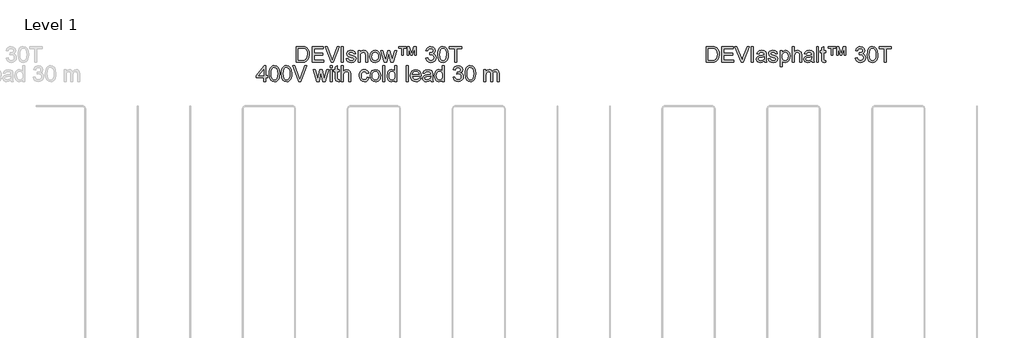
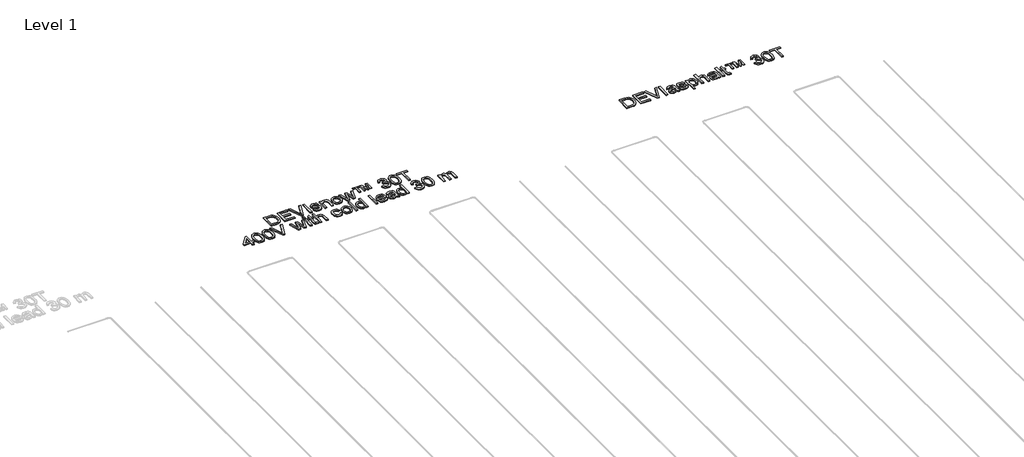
# One storey, part 22 of 26: 2 proxies.
"""IFC4 building model written with IfcOpenShell, lengths in millimetres."""

from ifc_helpers import new_model, si_unit, origin, origin_with_axes, place, context, project, spatial, polyline, outline, extrude, element, save

model = new_model("IFC4")

# Units and contexts
model_context = context("Model", 3, world=origin())
ifc_project = project(units=[si_unit("LENGTHUNIT", "METRE", prefix="MILLI")], contexts=[model_context])

# Site, building, storey
site = spatial("IfcSite", under=ifc_project)
building = spatial("IfcBuilding", under=site)
storey = spatial("IfcBuildingStorey", under=building, Name="Level 1", Elevation=0.0)

# Proxies
placement = place(None, origin())
element("IfcBuildingElementProxy", 1, Name="150mm", ObjectType="150mm", at=placement, inside=storey, context=model_context, shape_type="SweptSolid", body=[
    extrude(outline(polyline([(29329.6618834, -17520.7202), (29329.6618834, -17370.0357347), (29381.6436093, -17370.0357347), (29408.5357832, -17372.2062385), (29430.6822793, -17382.985181), (29441.1025368, -17394.4630992), (29448.524556, -17408.7369206), (29452.9667311, -17425.5307337), (29454.4474562, -17444.568627), (29450.4375424, -17474.9740739), (29440.1368466, -17496.9182349), (29426.3780599, -17510.585051), (29408.3702363, -17518.145026), (29384.1452069, -17520.7202), (29329.6618834, -17520.7202)]), holes=[polyline([(29348.4974416, -17501.8846418), (29381.8275503, -17501.8846418), (29406.0709738, -17499.162315), (29420.0504896, -17491.4735813), (29431.5100138, -17472.7667819), (29435.611898, -17444.2743214), (29433.6023426, -17423.746506), (29427.5736764, -17408.5897678), (29418.6663336, -17398.1787074), (29408.0207484, -17391.8879252), (29381.3125155, -17388.8712929), (29348.4974416, -17388.8712929), (29348.4974416, -17501.8846418)])]), origin_with_axes(), (0.0, 0.0, 1.0), 10.0),
    extrude(outline(polyline([(29480.3463486, -17520.7202), (29480.3463486, -17370.0357347), (29588.650808, -17370.0357347), (29588.650808, -17388.8712929), (29499.1819068, -17388.8712929), (29499.1819068, -17433.6057435), (29583.9419185, -17433.6057435), (29583.9419185, -17452.4413017), (29499.1819068, -17452.4413017), (29499.1819068, -17501.8846418), (29591.0052528, -17501.8846418), (29591.0052528, -17520.7202), (29480.3463486, -17520.7202)])), origin_with_axes(), (0.0, 0.0, 1.0), 10.0),
    extrude(outline(polyline([(29663.7723114, -17520.7202), (29603.8075462, -17370.0357347), (29623.9674795, -17370.0357347), (29664.1034052, -17478.5977115), (29672.2335973, -17503.0618642), (29680.2534248, -17478.5977115), (29720.4997151, -17370.0357347), (29740.6596484, -17370.0357347), (29683.233269, -17520.7202), (29663.7723114, -17520.7202)])), origin_with_axes(), (0.0, 0.0, 1.0), 10.0),
    extrude(outline(polyline([(29760.5252762, -17520.7202), (29760.5252762, -17370.0357347), (29779.3608343, -17370.0357347), (29779.3608343, -17520.7202), (29760.5252762, -17520.7202)])), origin_with_axes(), (0.0, 0.0, 1.0), 10.0),
    extrude(outline(polyline([(29885.3108489, -17506.5935313), (29867.0455079, -17519.3590366), (29846.8671804, -17523.0746447), (29831.1264296, -17520.8397616), (29819.5151541, -17514.1351122), (29812.3552507, -17503.953978), (29809.9686163, -17491.2896403), (29813.5738599, -17476.3904195), (29823.0468212, -17465.5746889), (29836.2353908, -17459.3942714), (29852.5325631, -17456.56158), (29885.2004843, -17450.0868569), (29885.3108489, -17445.8930021), (29884.0140649, -17437.4868985), (29880.1237128, -17431.9870627), (29871.4233036, -17427.9035726), (29859.3015919, -17426.5424092), (29840.2453045, -17430.1660468), (29831.1586192, -17443.0235226), (29812.3230611, -17440.6690778), (29820.4716473, -17422.274978), (29836.8791843, -17411.4960356), (29861.729613, -17407.706851), (29884.5566908, -17411.0545772), (29897.4509548, -17419.4606808), (29903.2267021, -17432.2445801), (29904.1464071, -17448.7256935), (29904.1464071, -17472.1597766), (29905.1029003, -17504.8828801), (29908.8552966, -17520.7202), (29890.0197385, -17520.7202), (29885.3108489, -17506.5935313)]), holes=[polyline([(29885.3108489, -17468.922415), (29854.9237961, -17474.6981624), (29838.7185942, -17477.7515829), (29831.3793484, -17482.7179899), (29828.8041745, -17489.9652652), (29834.4143749, -17500.1555964), (29850.8770942, -17504.2390866), (29869.9333815, -17499.7325321), (29882.2206402, -17488.824831), (29885.2004843, -17474.256704), (29885.3108489, -17468.922415)])]), origin_with_axes(), (0.0, 0.0, 1.0), 10.0),
    extrude(outline(polyline([(29922.9819652, -17487.7579732), (29941.8175234, -17485.4035284), (29944.7881705, -17493.4601441), (29950.5363267, -17499.3830442), (29970.512319, -17504.2390866), (29989.7157591, -17499.7877144), (29995.9697531, -17489.3398658), (29994.3970575, -17484.5390057), (29989.6789709, -17480.8785799), (29970.2915898, -17475.5075028), (29941.927888, -17466.2920588), (29929.5486588, -17455.5315104), (29925.33641, -17440.337984), (29928.7209243, -17426.3032859), (29937.9547624, -17415.5795257), (29949.9293214, -17410.0061135), (29966.1345233, -17407.706851), (29989.0535716, -17411.4040651), (30003.6216986, -17421.4104554), (30010.0964217, -17438.314633), (29991.2608635, -17440.6690778), (29984.1791351, -17430.2764114), (29967.6060512, -17426.5424092), (29949.5798335, -17430.1108645), (29944.1719681, -17438.4249976), (29946.4160483, -17443.9064394), (29953.4425944, -17448.0635059), (29969.6661904, -17452.0734197), (29997.3125223, -17460.9393757), (30010.151604, -17470.9825542), (30014.8053112, -17487.353303), (30009.3422636, -17505.3795208), (29993.5785201, -17518.4577257), (29970.2548016, -17523.0746447), (29951.2628936, -17520.8489587), (29937.4029394, -17514.1719004), (29928.1507073, -17503.1170465), (29922.9819652, -17487.7579732)])), origin_with_axes(), (0.0, 0.0, 1.0), 10.0),
    extrude(outline(polyline([(30035.9953141, -17563.1002058), (30035.9953141, -17410.0612958), (30054.8308723, -17410.0612958), (30054.8308723, -17428.528972), (30067.8538949, -17412.9123813), (30085.4386543, -17407.706851), (30098.1765684, -17409.5278669), (30109.3141958, -17414.9909145), (30118.382487, -17423.7649001), (30124.9123924, -17435.5187299), (30130.1731049, -17464.5446193), (30128.6877814, -17480.6532522), (30124.2318107, -17495.0604308), (30116.9477472, -17507.0349897), (30106.9781451, -17515.8457635), (30095.3668696, -17521.2674244), (30083.1577859, -17523.0746447), (30066.768643, -17518.2369965), (30054.8308723, -17506.0049202), (30054.8308723, -17563.1002058), (30035.9953141, -17563.1002058)]), holes=[polyline([(30054.8308723, -17466.2736647), (30056.8680188, -17483.1594483), (30062.9794585, -17494.9684603), (30071.9971659, -17501.92143), (30082.7531157, -17504.2390866), (30093.6838095, -17501.8386566), (30102.9314432, -17494.6373665), (30109.2360209, -17482.3960931), (30111.3375468, -17464.8757131), (30109.2866046, -17448.0819), (30103.1337783, -17436.1073411), (30094.1298664, -17428.9336422), (30083.5256679, -17426.5424092), (30072.8800827, -17429.0853935), (30063.5312815, -17436.7143464), (30057.0059746, -17449.1901445), (30054.8308723, -17466.2736647)])]), origin_with_axes(), (0.0, 0.0, 1.0), 10.0),
    extrude(outline(polyline([(30151.3631078, -17520.7202), (30151.3631078, -17370.0357347), (30170.198666, -17370.0357347), (30170.198666, -17425.4387632), (30184.8863546, -17412.1398291), (30202.9769518, -17407.706851), (30224.1301665, -17412.5444993), (30236.9692481, -17425.9170098), (30240.8320091, -17450.6754681), (30240.8320091, -17520.7202), (30221.9964509, -17520.7202), (30221.9964509, -17452.6252427), (30220.4973318, -17440.8346247), (30215.9999744, -17432.7596149), (30208.7526991, -17428.0967106), (30199.0038262, -17426.5424092), (30183.5711765, -17430.7362639), (30173.2704806, -17442.1038176), (30170.198666, -17461.9326571), (30170.198666, -17520.7202), (30151.3631078, -17520.7202)])), origin_with_axes(), (0.0, 0.0, 1.0), 10.0),
    extrude(outline(polyline([(30337.3642446, -17506.5935313), (30319.0989035, -17519.3590366), (30298.9205761, -17523.0746447), (30283.1798252, -17520.8397616), (30271.5685498, -17514.1351122), (30264.4086464, -17503.953978), (30262.022012, -17491.2896403), (30265.6272555, -17476.3904195), (30275.1002169, -17465.5746889), (30288.2887864, -17459.3942714), (30304.5859588, -17456.56158), (30337.25388, -17450.0868569), (30337.3642446, -17445.8930021), (30336.0674606, -17437.4868985), (30332.1771085, -17431.9870627), (30323.4766993, -17427.9035726), (30311.3549875, -17426.5424092), (30292.2987002, -17430.1660468), (30283.2120149, -17443.0235226), (30264.3764567, -17440.6690778), (30272.5250429, -17422.274978), (30288.9325799, -17411.4960356), (30313.7830087, -17407.706851), (30336.6100865, -17411.0545772), (30349.5043504, -17419.4606808), (30355.2800978, -17432.2445801), (30356.1998027, -17448.7256935), (30356.1998027, -17472.1597766), (30357.1562959, -17504.8828801), (30360.9086923, -17520.7202), (30342.0731341, -17520.7202), (30337.3642446, -17506.5935313)]), holes=[polyline([(30337.3642446, -17468.922415), (30306.9771918, -17474.6981624), (30290.7719899, -17477.7515829), (30283.4327441, -17482.7179899), (30280.8575701, -17489.9652652), (30286.4677706, -17500.1555964), (30302.9304898, -17504.2390866), (30321.9867772, -17499.7325321), (30334.2740358, -17488.824831), (30337.25388, -17474.256704), (30337.3642446, -17468.922415)])]), origin_with_axes(), (0.0, 0.0, 1.0), 10.0),
    extrude(outline(polyline([(30382.0986952, -17520.7202), (30382.0986952, -17370.0357347), (30400.9342534, -17370.0357347), (30400.9342534, -17520.7202), (30382.0986952, -17520.7202)])), origin_with_axes(), (0.0, 0.0, 1.0), 10.0),
    extrude(outline(polyline([(30469.2131517, -17505.0116388), (30471.5675964, -17521.272023), (30457.477716, -17523.0746447), (30441.6955784, -17519.9476478), (30433.8229037, -17511.7438793), (30431.5420354, -17490.3699354), (30431.5420354, -17428.896854), (30417.4153667, -17428.896854), (30417.4153667, -17410.0612958), (30431.5420354, -17410.0612958), (30431.5420354, -17383.169122), (30450.3775935, -17372.0958739), (30450.3775935, -17410.0612958), (30469.2131517, -17410.0612958), (30469.2131517, -17428.896854), (30450.3775935, -17428.896854), (30450.3775935, -17489.8181124), (30451.3708749, -17499.530197), (30454.5898424, -17502.9698937), (30461.0093832, -17504.2390866), (30469.2131517, -17505.0116388)])), origin_with_axes(), (0.0, 0.0, 1.0), 10.0),
    extrude(outline(polyline([(30523.3653814, -17454.7957464), (30523.3653814, -17384.1624033), (30495.1120441, -17384.1624033), (30495.1120441, -17370.0357347), (30565.7453872, -17370.0357347), (30565.7453872, -17384.1624033), (30537.49205, -17384.1624033), (30537.49205, -17454.7957464), (30523.3653814, -17454.7957464)])), origin_with_axes(), (0.0, 0.0, 1.0), 10.0),
    extrude(outline(polyline([(30575.1631663, -17454.7957464), (30575.1631663, -17370.0357347), (30596.0588636, -17370.0357347), (30617.6167485, -17438.0939038), (30638.917116, -17370.0357347), (30659.923178, -17370.0357347), (30659.923178, -17454.7957464), (30645.7965093, -17454.7957464), (30645.7965093, -17385.1924729), (30624.6065064, -17454.7957464), (30610.4798378, -17454.7957464), (30589.2898349, -17384.1624033), (30589.2898349, -17454.7957464), (30575.1631663, -17454.7957464)])), origin_with_axes(), (0.0, 0.0, 1.0), 10.0),
    extrude(outline(polyline([(30751.746524, -17480.6946389), (30770.5820821, -17478.3401941), (30774.7989295, -17490.1767973), (30780.9747485, -17498.1690337), (30789.4130417, -17502.7215733), (30800.4173119, -17504.2390866), (30813.32997, -17502.1513563), (30823.299572, -17495.8881653), (30829.6731276, -17486.5439626), (30831.7976461, -17475.2131972), (30829.6915217, -17464.4572473), (30823.3731484, -17455.7338455), (30813.8082165, -17449.9534997), (30801.9624163, -17448.0267177), (30788.7554527, -17450.0868569), (30790.85238, -17431.2512987), (30793.8690124, -17431.4720279), (30815.2429563, -17426.0641626), (30822.3614729, -17419.2031634), (30824.7343118, -17409.4358964), (30823.0144635, -17401.3011058), (30817.8549185, -17394.7022225), (30809.9822438, -17390.3290253), (30800.1230063, -17388.8712929), (30790.2453748, -17390.3428209), (30782.170365, -17394.7574048), (30776.275056, -17402.1150447), (30772.9365269, -17412.4157406), (30754.1009687, -17410.0612958), (30759.6467898, -17393.1479211), (30769.5152243, -17380.5203716), (30783.0164935, -17372.6568939), (30799.4608187, -17370.0357347), (30822.1775319, -17375.2044768), (30838.0700341, -17389.3311454), (30843.56987, -17408.3322504), (30838.3459456, -17425.6962806), (30822.8949018, -17438.1674802), (30834.6855198, -17442.9315521), (30843.4227172, -17451.0433501), (30848.8305825, -17462.0614158), (30850.6332043, -17475.544291), (30847.0279607, -17493.9016025), (30836.2122301, -17509.2422817), (30819.8874665, -17519.616554), (30799.7551243, -17523.0746447), (30781.5449656, -17520.1223917), (30766.7193212, -17511.2656327), (30756.4094282, -17497.7183782), (30751.746524, -17480.6946389)])), origin_with_axes(), (0.0, 0.0, 1.0), 10.0),
    extrude(outline(polyline([(30867.1143176, -17446.5919779), (30868.4984737, -17422.4727146), (30872.6509417, -17403.2370848), (30879.530335, -17388.5907829), (30889.0952669, -17378.2395032), (30901.4147152, -17372.0866769), (30916.5576578, -17370.0357347), (30938.5570011, -17374.8917771), (30953.7505275, -17388.889687), (30962.5796954, -17411.1833359), (30966.0009979, -17446.5919779), (30964.6306375, -17470.5732855), (30960.5195562, -17489.7629301), (30953.6815496, -17504.4230276), (30944.1304133, -17514.8156939), (30931.7833739, -17521.009907), (30916.5576578, -17523.0746447), (30896.9863357, -17519.4877953), (30882.123903, -17508.7272469), (30870.866714, -17483.2422217), (30867.1143176, -17446.5919779)]), holes=[polyline([(30885.9498758, -17446.5551897), (30888.1571678, -17476.1834859), (30894.7790437, -17493.3313854), (30904.6382812, -17501.5121613), (30916.5576578, -17504.2390866), (30928.4770344, -17501.5029642), (30938.3362719, -17493.2945972), (30944.9581478, -17476.1375007), (30947.1654398, -17446.5551897), (30945.0317242, -17417.5936797), (30938.6305775, -17400.3124229), (30928.7897341, -17391.7315754), (30916.3369286, -17388.8712929), (30904.5463107, -17391.3912846), (30895.0733493, -17398.9512596), (30888.2307442, -17417.3085711), (30885.9498758, -17446.5551897)])]), origin_with_axes(), (0.0, 0.0, 1.0), 10.0),
    extrude(outline(polyline([(31027.2165619, -17520.7202), (31027.2165619, -17388.8712929), (30977.7732218, -17388.8712929), (30977.7732218, -17370.0357347), (31095.4954603, -17370.0357347), (31095.4954603, -17388.8712929), (31046.0521201, -17388.8712929), (31046.0521201, -17520.7202), (31027.2165619, -17520.7202)])), origin_with_axes(), (0.0, 0.0, 1.0), 10.0),
])
element("IfcBuildingElementProxy", 2, Name="150mm", ObjectType="150mm", at=placement, inside=storey, context=model_context, shape_type="SweptSolid", body=[
    extrude(outline(polyline([(25423.8396742, -17520.7202), (25423.8396742, -17370.0357347), (25475.8214001, -17370.0357347), (25502.7135739, -17372.2062385), (25524.86007, -17382.985181), (25535.2803276, -17394.4630992), (25542.7023468, -17408.7369206), (25547.1445219, -17425.5307337), (25548.6252469, -17444.568627), (25544.6153332, -17474.9740739), (25534.3146373, -17496.9182349), (25520.5558507, -17510.585051), (25502.548027, -17518.145026), (25478.3229977, -17520.7202), (25423.8396742, -17520.7202)]), holes=[polyline([(25442.6752323, -17501.8846418), (25476.0053411, -17501.8846418), (25500.2487646, -17499.162315), (25514.2282804, -17491.4735813), (25525.6878045, -17472.7667819), (25529.7896888, -17444.2743214), (25527.7801334, -17423.746506), (25521.7514672, -17408.5897678), (25512.8441244, -17398.1787074), (25502.1985391, -17391.8879252), (25475.4903063, -17388.8712929), (25442.6752323, -17388.8712929), (25442.6752323, -17501.8846418)])]), origin_with_axes(), (0.0, 0.0, 1.0), 10.0),
    extrude(outline(polyline([(25574.5241394, -17520.7202), (25574.5241394, -17370.0357347), (25682.8285988, -17370.0357347), (25682.8285988, -17388.8712929), (25593.3596975, -17388.8712929), (25593.3596975, -17433.6057435), (25678.1197092, -17433.6057435), (25678.1197092, -17452.4413017), (25593.3596975, -17452.4413017), (25593.3596975, -17501.8846418), (25685.1830435, -17501.8846418), (25685.1830435, -17520.7202), (25574.5241394, -17520.7202)])), origin_with_axes(), (0.0, 0.0, 1.0), 10.0),
    extrude(outline(polyline([(25757.9501022, -17520.7202), (25697.985337, -17370.0357347), (25718.1452703, -17370.0357347), (25758.281196, -17478.5977115), (25766.4113881, -17503.0618642), (25774.4312156, -17478.5977115), (25814.6775058, -17370.0357347), (25834.8374392, -17370.0357347), (25777.4110597, -17520.7202), (25757.9501022, -17520.7202)])), origin_with_axes(), (0.0, 0.0, 1.0), 10.0),
    extrude(outline(polyline([(25854.7030669, -17520.7202), (25854.7030669, -17370.0357347), (25873.5386251, -17370.0357347), (25873.5386251, -17520.7202), (25854.7030669, -17520.7202)])), origin_with_axes(), (0.0, 0.0, 1.0), 10.0),
    extrude(outline(polyline([(25901.7919623, -17487.7579732), (25920.6275205, -17485.4035284), (25923.5981676, -17493.4601441), (25929.3463237, -17499.3830442), (25949.3223161, -17504.2390866), (25968.5257562, -17499.7877144), (25974.7797501, -17489.3398658), (25973.2070546, -17484.5390057), (25968.488968, -17480.8785799), (25949.1015869, -17475.5075028), (25920.7378851, -17466.2920588), (25908.3586559, -17455.5315104), (25904.1464071, -17440.337984), (25907.5309214, -17426.3032859), (25916.7647595, -17415.5795257), (25928.7393184, -17410.0061135), (25944.9445203, -17407.706851), (25967.8635686, -17411.4040651), (25982.4316956, -17421.4104554), (25988.9064188, -17438.314633), (25970.0708606, -17440.6690778), (25962.9891322, -17430.2764114), (25946.4160483, -17426.5424092), (25928.3898306, -17430.1108645), (25922.9819652, -17438.4249976), (25925.2260454, -17443.9064394), (25932.2525915, -17448.0635059), (25948.4761875, -17452.0734197), (25976.1225194, -17460.9393757), (25988.9616011, -17470.9825542), (25993.6153083, -17487.353303), (25988.1522607, -17505.3795208), (25972.3885172, -17518.4577257), (25949.0647987, -17523.0746447), (25930.0728907, -17520.8489587), (25916.2129365, -17514.1719004), (25906.9607043, -17503.1170465), (25901.7919623, -17487.7579732)])), origin_with_axes(), (0.0, 0.0, 1.0), 10.0),
    extrude(outline(polyline([(26014.8053112, -17520.7202), (26014.8053112, -17410.0612958), (26033.6408694, -17410.0612958), (26033.6408694, -17425.5123396), (26048.0434495, -17412.1582232), (26067.7067421, -17407.706851), (26085.4938366, -17411.2937005), (26097.6339424, -17420.7114796), (26103.2809311, -17434.5622367), (26104.2742124, -17452.7723954), (26104.2742124, -17520.7202), (26085.4386543, -17520.7202), (26085.4386543, -17455.3107812), (26083.2681505, -17438.6457268), (26075.5978109, -17429.834953), (26062.6667588, -17426.5424092), (26051.6348975, -17428.3910162), (26042.230914, -17433.9368373), (26035.7883805, -17444.6514004), (26033.6408694, -17462.0062335), (26033.6408694, -17520.7202), (26014.8053112, -17520.7202)])), origin_with_axes(), (0.0, 0.0, 1.0), 10.0),
    extrude(outline(polyline([(26125.4642154, -17465.3907479), (26129.5385085, -17438.7101062), (26141.7613878, -17419.9573215), (26156.8629437, -17410.7694686), (26174.9443437, -17407.706851), (26194.7317965, -17411.4362548), (26210.5369268, -17422.6244659), (26220.8974034, -17440.3885678), (26224.3508957, -17463.8456435), (26222.8241854, -17482.8743397), (26218.2440546, -17497.3596933), (26210.7438604, -17508.2076136), (26200.4569601, -17516.3240101), (26188.2386793, -17521.3869861), (26174.9443437, -17523.0746447), (26154.9177676, -17519.3590366), (26139.1310315, -17508.2122121), (26128.8809194, -17490.0756298), (26125.4642154, -17465.3907479)]), holes=[polyline([(26144.2997735, -17465.3539597), (26146.4794743, -17482.4006916), (26153.0185768, -17494.545396), (26162.8594202, -17501.8156639), (26174.9443437, -17504.2390866), (26186.974085, -17501.8018684), (26196.7965342, -17494.4902137), (26203.3356367, -17482.184561), (26205.5153375, -17464.7653485), (26203.3218411, -17448.2152572), (26196.7413519, -17436.2360998), (26186.9051071, -17428.9658318), (26174.9443437, -17426.5424092), (26162.8594202, -17428.9566348), (26153.0185768, -17436.1993116), (26146.4794743, -17448.3164248), (26144.2997735, -17465.3539597)])]), origin_with_axes(), (0.0, 0.0, 1.0), 10.0),
    extrude(outline(polyline([(26263.8982102, -17520.7202), (26230.2370076, -17410.0612958), (26249.8083297, -17410.0612958), (26268.9014053, -17474.624586), (26274.6035762, -17497.6907871), (26279.2756776, -17475.4707146), (26294.469204, -17410.0612958), (26316.9100057, -17410.0612958), (26332.0299557, -17475.2867736), (26336.1870222, -17495.4099187), (26342.1467105, -17474.1831276), (26361.2765743, -17410.0612958), (26380.9214728, -17410.0612958), (26347.0027529, -17520.7202), (26324.2308574, -17520.7202), (26309.773095, -17455.825816), (26305.5792402, -17435.5923063), (26286.9276231, -17520.7202), (26263.8982102, -17520.7202)])), origin_with_axes(), (0.0, 0.0, 1.0), 10.0),
    extrude(outline(polyline([(26429.1875906, -17454.7957464), (26429.1875906, -17384.1624033), (26400.9342534, -17384.1624033), (26400.9342534, -17370.0357347), (26471.5675964, -17370.0357347), (26471.5675964, -17384.1624033), (26443.3142592, -17384.1624033), (26443.3142592, -17454.7957464), (26429.1875906, -17454.7957464)])), origin_with_axes(), (0.0, 0.0, 1.0), 10.0),
    extrude(outline(polyline([(26480.9853755, -17454.7957464), (26480.9853755, -17370.0357347), (26501.8810728, -17370.0357347), (26523.4389578, -17438.0939038), (26544.7393253, -17370.0357347), (26565.7453872, -17370.0357347), (26565.7453872, -17454.7957464), (26551.6187186, -17454.7957464), (26551.6187186, -17385.1924729), (26530.4287157, -17454.7957464), (26516.302047, -17454.7957464), (26495.1120441, -17384.1624033), (26495.1120441, -17454.7957464), (26480.9853755, -17454.7957464)])), origin_with_axes(), (0.0, 0.0, 1.0), 10.0),
    extrude(outline(polyline([(26657.5687332, -17480.6946389), (26676.4042913, -17478.3401941), (26680.6211387, -17490.1767973), (26686.7969577, -17498.1690337), (26695.235251, -17502.7215733), (26706.2395212, -17504.2390866), (26719.1521792, -17502.1513563), (26729.1217813, -17495.8881653), (26735.4953368, -17486.5439626), (26737.6198553, -17475.2131972), (26735.5137309, -17464.4572473), (26729.1953577, -17455.7338455), (26719.6304258, -17449.9534997), (26707.7846255, -17448.0267177), (26694.5776619, -17450.0868569), (26696.6745893, -17431.2512987), (26699.6912216, -17431.4720279), (26721.0651656, -17426.0641626), (26728.1836822, -17419.2031634), (26730.556521, -17409.4358964), (26728.8366727, -17401.3011058), (26723.6771277, -17394.7022225), (26715.804453, -17390.3290253), (26705.9452156, -17388.8712929), (26696.067584, -17390.3428209), (26687.9925742, -17394.7574048), (26682.0972652, -17402.1150447), (26678.7587361, -17412.4157406), (26659.923178, -17410.0612958), (26665.468999, -17393.1479211), (26675.3374336, -17380.5203716), (26688.8387028, -17372.6568939), (26705.283028, -17370.0357347), (26727.9997412, -17375.2044768), (26743.8922434, -17389.3311454), (26749.3920792, -17408.3322504), (26744.1681549, -17425.6962806), (26728.7171111, -17438.1674802), (26740.507729, -17442.9315521), (26749.2449264, -17451.0433501), (26754.6527917, -17462.0614158), (26756.4554135, -17475.544291), (26752.8501699, -17493.9016025), (26742.0344393, -17509.2422817), (26725.7096757, -17519.616554), (26705.5773336, -17523.0746447), (26687.3671748, -17520.1223917), (26672.5415304, -17511.2656327), (26662.2316375, -17497.7183782), (26657.5687332, -17480.6946389)])), origin_with_axes(), (0.0, 0.0, 1.0), 10.0),
    extrude(outline(polyline([(26772.9365269, -17446.5919779), (26774.3206829, -17422.4727146), (26778.4731509, -17403.2370848), (26785.3525442, -17388.5907829), (26794.9174761, -17378.2395032), (26807.2369244, -17372.0866769), (26822.379867, -17370.0357347), (26844.3792103, -17374.8917771), (26859.5727367, -17388.889687), (26868.4019046, -17411.1833359), (26871.8232072, -17446.5919779), (26870.4528468, -17470.5732855), (26866.3417655, -17489.7629301), (26859.5037589, -17504.4230276), (26849.9526226, -17514.8156939), (26837.6055831, -17521.009907), (26822.379867, -17523.0746447), (26802.8085449, -17519.4877953), (26787.9461123, -17508.7272469), (26776.6889232, -17483.2422217), (26772.9365269, -17446.5919779)]), holes=[polyline([(26791.772085, -17446.5551897), (26793.979377, -17476.1834859), (26800.6012529, -17493.3313854), (26810.4604904, -17501.5121613), (26822.379867, -17504.2390866), (26834.2992437, -17501.5029642), (26844.1584811, -17493.2945972), (26850.7803571, -17476.1375007), (26852.987649, -17446.5551897), (26850.8539335, -17417.5936797), (26844.4527867, -17400.3124229), (26834.6119434, -17391.7315754), (26822.1591378, -17388.8712929), (26810.3685199, -17391.3912846), (26800.8955585, -17398.9512596), (26794.0529534, -17417.3085711), (26791.772085, -17446.5551897)])]), origin_with_axes(), (0.0, 0.0, 1.0), 10.0),
    extrude(outline(polyline([(26933.0387712, -17520.7202), (26933.0387712, -17388.8712929), (26883.595431, -17388.8712929), (26883.595431, -17370.0357347), (27001.3176695, -17370.0357347), (27001.3176695, -17388.8712929), (26951.8743293, -17388.8712929), (26951.8743293, -17520.7202), (26933.0387712, -17520.7202)])), origin_with_axes(), (0.0, 0.0, 1.0), 10.0),
    extrude(outline(polyline([(25111.8757423, -17703.6824267), (25111.8757423, -17668.3657552), (25043.596844, -17668.3657552), (25043.596844, -17649.530197), (25116.5846318, -17555.3524063), (25130.7113004, -17555.3524063), (25130.7113004, -17649.530197), (25149.5468586, -17649.530197), (25149.5468586, -17668.3657552), (25130.7113004, -17668.3657552), (25130.7113004, -17703.6824267), (25111.8757423, -17703.6824267)]), holes=[polyline([(25111.8757423, -17649.530197), (25111.8757423, -17591.3312654), (25066.7734096, -17649.530197), (25111.8757423, -17649.530197)])]), origin_with_axes(), (0.0, 0.0, 1.0), 10.0),
    extrude(outline(polyline([(25166.0279719, -17629.5542047), (25167.412128, -17605.4349414), (25171.564596, -17586.1993116), (25178.4439893, -17571.5530096), (25188.0089212, -17561.20173), (25200.3283695, -17555.0489036), (25215.4713121, -17552.9979615), (25237.4706554, -17557.8540038), (25252.6641818, -17571.8519138), (25261.4933497, -17594.1455627), (25264.9146523, -17629.5542047), (25263.5442918, -17653.5355123), (25259.4332105, -17672.7251568), (25252.5952039, -17687.3852543), (25243.0440676, -17697.7779207), (25230.6970282, -17703.9721338), (25215.4713121, -17706.0368715), (25195.89999, -17702.450022), (25181.0375574, -17691.6894737), (25169.7803683, -17666.2044485), (25166.0279719, -17629.5542047)]), holes=[polyline([(25184.8635301, -17629.5174165), (25187.0708221, -17659.1457127), (25193.692698, -17676.2936122), (25203.5519355, -17684.4743881), (25215.4713121, -17687.2013133), (25227.3906887, -17684.465191), (25237.2499262, -17676.256824), (25243.8718021, -17659.0997274), (25246.0790941, -17629.5174165), (25243.9453785, -17600.5559064), (25237.5442318, -17583.2746497), (25227.7033884, -17574.6938022), (25215.2505829, -17571.8335197), (25203.459965, -17574.3535113), (25193.9870036, -17581.9134863), (25187.1443985, -17600.2707979), (25184.8635301, -17629.5174165)])]), origin_with_axes(), (0.0, 0.0, 1.0), 10.0),
    extrude(outline(polyline([(25281.3957656, -17629.5542047), (25282.7799216, -17605.4349414), (25286.9323897, -17586.1993116), (25293.811783, -17571.5530096), (25303.3767148, -17561.20173), (25315.6961632, -17555.0489036), (25330.8391058, -17552.9979615), (25352.8384491, -17557.8540038), (25368.0319755, -17571.8519138), (25376.8611434, -17594.1455627), (25380.2824459, -17629.5542047), (25378.9120855, -17653.5355123), (25374.8010042, -17672.7251568), (25367.9629976, -17687.3852543), (25358.4118613, -17697.7779207), (25346.0648219, -17703.9721338), (25330.8391058, -17706.0368715), (25311.2677836, -17702.450022), (25296.405351, -17691.6894737), (25285.148162, -17666.2044485), (25281.3957656, -17629.5542047)]), holes=[polyline([(25300.2313238, -17629.5174165), (25302.4386158, -17659.1457127), (25309.0604917, -17676.2936122), (25318.9197291, -17684.4743881), (25330.8391058, -17687.2013133), (25342.7584824, -17684.465191), (25352.6177199, -17676.256824), (25359.2395958, -17659.0997274), (25361.4468878, -17629.5174165), (25359.3131722, -17600.5559064), (25352.9120255, -17583.2746497), (25343.0711821, -17574.6938022), (25330.6183766, -17571.8335197), (25318.8277586, -17574.3535113), (25309.3547973, -17581.9134863), (25302.5121922, -17600.2707979), (25300.2313238, -17629.5174165)])]), origin_with_axes(), (0.0, 0.0, 1.0), 10.0),
    extrude(outline(polyline([(25448.340615, -17703.6824267), (25388.3758498, -17552.9979615), (25408.5357832, -17552.9979615), (25448.6717088, -17661.5599383), (25456.8019009, -17686.024091), (25464.8217284, -17661.5599383), (25505.0680187, -17552.9979615), (25525.227952, -17552.9979615), (25467.8015726, -17703.6824267), (25448.340615, -17703.6824267)])), origin_with_axes(), (0.0, 0.0, 1.0), 10.0),
    extrude(outline(polyline([(25617.603121, -17703.6824267), (25583.9419185, -17593.0235226), (25603.5132406, -17593.0235226), (25622.6063162, -17657.5868127), (25628.3084871, -17680.6530138), (25632.9805884, -17658.4329413), (25648.1741148, -17593.0235226), (25670.6149165, -17593.0235226), (25685.7348665, -17658.2490003), (25689.8919331, -17678.3721455), (25695.8516214, -17657.1453543), (25714.9814852, -17593.0235226), (25734.6263837, -17593.0235226), (25700.7076637, -17703.6824267), (25677.9357682, -17703.6824267), (25663.4780058, -17638.7880428), (25659.2841511, -17618.554533), (25640.6325339, -17703.6824267), (25617.603121, -17703.6824267)])), origin_with_axes(), (0.0, 0.0, 1.0), 10.0),
    extrude(outline(polyline([(25747.5758299, -17571.8335197), (25747.5758299, -17552.9979615), (25766.4113881, -17552.9979615), (25766.4113881, -17571.8335197), (25747.5758299, -17571.8335197)])), origin_with_axes(), (0.0, 0.0, 1.0), 10.0),
    extrude(outline(polyline([(25747.5758299, -17703.6824267), (25747.5758299, -17593.0235226), (25766.4113881, -17593.0235226), (25766.4113881, -17703.6824267), (25747.5758299, -17703.6824267)])), origin_with_axes(), (0.0, 0.0, 1.0), 10.0),
    extrude(outline(polyline([(25834.6902864, -17687.9738655), (25837.0447312, -17704.2342497), (25822.9548507, -17706.0368715), (25807.1727131, -17702.9098745), (25799.3000384, -17694.706106), (25797.0191701, -17673.3321621), (25797.0191701, -17611.8590807), (25782.8925015, -17611.8590807), (25782.8925015, -17593.0235226), (25797.0191701, -17593.0235226), (25797.0191701, -17566.1313487), (25815.8547282, -17555.0581007), (25815.8547282, -17593.0235226), (25834.6902864, -17593.0235226), (25834.6902864, -17611.8590807), (25815.8547282, -17611.8590807), (25815.8547282, -17672.7803391), (25816.8480096, -17682.4924238), (25820.0669771, -17685.9321205), (25826.4865179, -17687.2013133), (25834.6902864, -17687.9738655)])), origin_with_axes(), (0.0, 0.0, 1.0), 10.0),
    extrude(outline(polyline([(25853.5258445, -17703.6824267), (25853.5258445, -17552.9979615), (25872.3614027, -17552.9979615), (25872.3614027, -17608.40099), (25887.0490913, -17595.1020558), (25905.1396885, -17590.6690778), (25926.2929032, -17595.506726), (25939.1319848, -17608.8792366), (25942.9947458, -17633.6376948), (25942.9947458, -17703.6824267), (25924.1591876, -17703.6824267), (25924.1591876, -17635.5874694), (25922.6600685, -17623.7968515), (25918.1627111, -17615.7218417), (25910.9154358, -17611.0589374), (25901.1665629, -17609.504636), (25885.7339132, -17613.6984907), (25875.4332173, -17625.0660444), (25872.3614027, -17644.8948839), (25872.3614027, -17703.6824267), (25853.5258445, -17703.6824267)])), origin_with_axes(), (0.0, 0.0, 1.0), 10.0),
    extrude(outline(polyline([(26098.3881005, -17663.6568657), (26117.2236587, -17666.0113104), (26111.9721432, -17682.7637368), (26102.1037087, -17695.4234759), (26088.5472572, -17703.3835226), (26072.2316907, -17706.0368715), (26052.1959175, -17702.3350589), (26036.528743, -17691.2296212), (26026.4165867, -17673.208002), (26023.0458679, -17648.7576448), (26024.4852062, -17631.9960214), (26028.8032211, -17617.4692812), (26036.0688905, -17605.738444), (26046.3511923, -17597.3645301), (26058.6522465, -17592.3429409), (26071.9741733, -17590.6690778), (26087.8896681, -17592.9683403), (26100.6137866, -17599.8661277), (26109.7418586, -17610.994558), (26114.8692139, -17625.9857493), (26096.0336558, -17628.3401941), (26087.2964584, -17614.2319196), (26072.1213261, -17609.504636), (26059.9490306, -17611.8314896), (26050.2875297, -17618.8120504), (26043.982952, -17630.8233976), (26041.8814261, -17648.2426101), (26043.9369667, -17665.8963473), (26050.1035887, -17677.9490812), (26059.5903456, -17684.8882553), (26071.6062913, -17687.2013133), (26081.3597627, -17685.7573765), (26089.3565975, -17681.425566), (26095.1737316, -17674.0955173), (26098.3881005, -17663.6568657)])), origin_with_axes(), (0.0, 0.0, 1.0), 10.0),
    extrude(outline(polyline([(26128.9958825, -17648.3529747), (26133.0701756, -17621.672333), (26145.2930549, -17602.9195482), (26160.3946108, -17593.7316954), (26178.4760109, -17590.6690778), (26198.2634637, -17594.3984815), (26214.0685939, -17605.5866927), (26224.4290706, -17623.3507946), (26227.8825628, -17646.8078703), (26226.3558525, -17665.8365665), (26221.7757217, -17680.32192), (26214.2755275, -17691.1698404), (26203.9886272, -17699.2862369), (26191.7703465, -17704.3492128), (26178.4760109, -17706.0368715), (26158.4494348, -17702.3212633), (26142.6626986, -17691.1744389), (26132.4125866, -17673.0378565), (26128.9958825, -17648.3529747)]), holes=[polyline([(26147.8314407, -17648.3161865), (26150.0111415, -17665.3629184), (26156.550244, -17677.5076228), (26166.3910873, -17684.7778907), (26178.4760109, -17687.2013133), (26190.5057521, -17684.7640951), (26200.3282014, -17677.4524405), (26206.8673039, -17665.1467877), (26209.0470047, -17647.7275753), (26206.8535083, -17631.177484), (26200.2730191, -17619.1983265), (26190.4367742, -17611.9280586), (26178.4760109, -17609.504636), (26166.3910873, -17611.9188616), (26156.550244, -17619.1615383), (26150.0111415, -17631.2786516), (26147.8314407, -17648.3161865)])]), origin_with_axes(), (0.0, 0.0, 1.0), 10.0),
    extrude(outline(polyline([(26249.0725657, -17703.6824267), (26249.0725657, -17552.9979615), (26267.9081239, -17552.9979615), (26267.9081239, -17703.6824267), (26249.0725657, -17703.6824267)])), origin_with_axes(), (0.0, 0.0, 1.0), 10.0),
    extrude(outline(polyline([(26364.4403594, -17703.6824267), (26364.4403594, -17685.9137264), (26351.9783568, -17701.0060852), (26334.7522824, -17706.0368715), (26322.5753884, -17704.2158556), (26311.4285639, -17698.752808), (26301.9923908, -17690.0294062), (26294.9474505, -17678.4273278), (26290.5604578, -17664.4156223), (26289.0981268, -17648.4633392), (26294.4875981, -17618.4809566), (26301.2198386, -17606.5891711), (26310.6376176, -17597.8427767), (26322.0281639, -17592.4625025), (26334.678706, -17590.6690778), (26352.0427362, -17595.8010316), (26364.4403594, -17609.136754), (26364.4403594, -17552.9979615), (26383.2759176, -17552.9979615), (26383.2759176, -17703.6824267), (26364.4403594, -17703.6824267)]), holes=[polyline([(26307.933685, -17648.3897629), (26310.0582035, -17665.4272978), (26316.4317591, -17677.544411), (26325.6931883, -17684.7870877), (26336.4813278, -17687.2013133), (26347.2648688, -17684.8974523), (26356.2917732, -17677.9858694), (26362.4032129, -17666.3378057), (26364.4403594, -17649.8245026), (26362.3664247, -17631.7706937), (26356.1446204, -17619.2535088), (26346.8877897, -17611.9418542), (26335.7087756, -17609.504636), (26324.8102715, -17611.8452852), (26315.8799361, -17618.8672327), (26309.9202478, -17630.9291637), (26307.933685, -17648.3897629)])]), origin_with_axes(), (0.0, 0.0, 1.0), 10.0),
    extrude(outline(polyline([(26470.390374, -17703.6824267), (26470.390374, -17552.9979615), (26489.2259322, -17552.9979615), (26489.2259322, -17703.6824267), (26470.390374, -17703.6824267)])), origin_with_axes(), (0.0, 0.0, 1.0), 10.0),
    extrude(outline(polyline([(26594.9552176, -17670.7202), (26613.4228938, -17673.0746447), (26606.7688282, -17686.9897812), (26596.1508341, -17697.3916446), (26581.8080348, -17703.8755648), (26563.9795536, -17706.0368715), (26541.8790428, -17702.3074678), (26524.8736975, -17691.1192566), (26514.0303757, -17673.1988049), (26510.4159351, -17649.2726796), (26514.0671639, -17624.5418125), (26525.0208503, -17606.0465452), (26541.7962693, -17594.5134447), (26562.9126958, -17590.6690778), (26583.3715333, -17594.5042476), (26599.7192895, -17606.009757), (26610.4384511, -17624.4682361), (26614.011505, -17649.162315), (26613.9011404, -17654.2390866), (26529.2514933, -17654.2390866), (26532.5118475, -17668.338164), (26540.085618, -17678.7032393), (26551.0163118, -17685.0767948), (26564.3474356, -17687.2013133), (26582.8151118, -17683.264976), (26594.9552176, -17670.7202)]), holes=[polyline([(26529.2514933, -17635.4035284), (26595.1759468, -17635.4035284), (26592.628364, -17625.4523205), (26587.6343659, -17618.3338038), (26576.6530884, -17611.7119279), (26562.8391194, -17609.504636), (26550.1425921, -17611.265871), (26539.6441596, -17616.5495762), (26532.3463006, -17624.7855343), (26529.2514933, -17635.4035284)])]), origin_with_axes(), (0.0, 0.0, 1.0), 10.0),
    extrude(outline(polyline([(26703.4804062, -17689.5557581), (26685.2150651, -17702.3212633), (26665.0367377, -17706.0368715), (26649.2959868, -17703.8019884), (26637.6847114, -17697.097339), (26630.524808, -17686.9162048), (26628.1381736, -17674.2518671), (26631.7434171, -17659.3526463), (26641.2163785, -17648.5369156), (26654.404948, -17642.3564981), (26670.7021204, -17639.5238068), (26703.3700416, -17633.0490837), (26703.4804062, -17628.8552289), (26702.1836222, -17620.4491253), (26698.2932701, -17614.9492895), (26689.5928609, -17610.8657993), (26677.4711491, -17609.504636), (26658.4148618, -17613.1282736), (26649.3281765, -17625.9857493), (26630.4926183, -17623.6313046), (26638.6412045, -17605.2372048), (26655.0487415, -17594.4582624), (26679.8991703, -17590.6690778), (26702.7262481, -17594.016804), (26715.620512, -17602.4229076), (26721.3962594, -17615.2068069), (26722.3159643, -17631.6879203), (26722.3159643, -17655.1220034), (26723.2724575, -17687.8451068), (26727.0248539, -17703.6824267), (26708.1892957, -17703.6824267), (26703.4804062, -17689.5557581)]), holes=[polyline([(26703.4804062, -17651.8846418), (26673.0933534, -17657.6603891), (26656.8881515, -17660.7138097), (26649.5489057, -17665.6802166), (26646.9737317, -17672.9274919), (26652.5839322, -17683.1178232), (26669.0466514, -17687.2013133), (26688.1029388, -17682.6947589), (26700.3901974, -17671.7870577), (26703.3700416, -17657.2189307), (26703.4804062, -17651.8846418)])]), origin_with_axes(), (0.0, 0.0, 1.0), 10.0),
    extrude(outline(polyline([(26816.4937551, -17703.6824267), (26816.4937551, -17685.9137264), (26804.0317525, -17701.0060852), (26786.8056781, -17706.0368715), (26774.6287841, -17704.2158556), (26763.4819596, -17698.752808), (26754.0457864, -17690.0294062), (26747.0008462, -17678.4273278), (26742.6138534, -17664.4156223), (26741.1515225, -17648.4633392), (26746.5409937, -17618.4809566), (26753.2732342, -17606.5891711), (26762.6910133, -17597.8427767), (26774.0815596, -17592.4625025), (26786.7321017, -17590.6690778), (26804.0961319, -17595.8010316), (26816.4937551, -17609.136754), (26816.4937551, -17552.9979615), (26835.3293133, -17552.9979615), (26835.3293133, -17703.6824267), (26816.4937551, -17703.6824267)]), holes=[polyline([(26759.9870807, -17648.3897629), (26762.1115992, -17665.4272978), (26768.4851547, -17677.544411), (26777.746584, -17684.7870877), (26788.5347235, -17687.2013133), (26799.3182645, -17684.8974523), (26808.3451689, -17677.9858694), (26814.4566086, -17666.3378057), (26816.4937551, -17649.8245026), (26814.4198204, -17631.7706937), (26808.1980161, -17619.2535088), (26798.9411854, -17611.9418542), (26787.7621713, -17609.504636), (26776.8636672, -17611.8452852), (26767.9333317, -17618.8672327), (26761.9736434, -17630.9291637), (26759.9870807, -17648.3897629)])]), origin_with_axes(), (0.0, 0.0, 1.0), 10.0),
    extrude(outline(polyline([(26917.7348802, -17663.6568657), (26936.5704383, -17661.3024209), (26940.7872857, -17673.1390241), (26946.9631047, -17681.1312604), (26955.401398, -17685.6838001), (26966.4056681, -17687.2013133), (26979.3183262, -17685.113583), (26989.2879282, -17678.8503921), (26995.6614838, -17669.5061894), (26997.7860023, -17658.1754239), (26995.6798779, -17647.4194741), (26989.3615046, -17638.6960723), (26979.7965728, -17632.9157264), (26967.9507725, -17630.9889445), (26954.7438089, -17633.0490837), (26956.8407363, -17614.2135255), (26959.8573686, -17614.4342547), (26981.2313125, -17609.0263894), (26988.3498292, -17602.1653902), (26990.722668, -17592.3981232), (26989.0028197, -17584.2633326), (26983.8432747, -17577.6644493), (26975.9706, -17573.2912521), (26966.1113625, -17571.8335197), (26956.233731, -17573.3050476), (26948.1587212, -17577.7196316), (26942.2634122, -17585.0772715), (26938.9248831, -17595.3779673), (26920.089325, -17593.0235226), (26925.635146, -17576.1101478), (26935.5035805, -17563.4825984), (26949.0048498, -17555.6191207), (26965.449175, -17552.9979615), (26988.1658882, -17558.1667035), (27004.0583904, -17572.2933721), (27009.5582262, -17591.2944772), (27004.3343018, -17608.6585074), (26988.883258, -17621.129707), (27000.673876, -17625.8937788), (27009.4110734, -17634.0055768), (27014.8189387, -17645.0236426), (27016.6215605, -17658.5065177), (27013.0163169, -17676.8638293), (27002.2005863, -17692.2045085), (26985.8758227, -17702.5787807), (26965.7434806, -17706.0368715), (26947.5333218, -17703.0846185), (26932.7076774, -17694.2278594), (26922.3977845, -17680.680605), (26917.7348802, -17663.6568657)])), origin_with_axes(), (0.0, 0.0, 1.0), 10.0),
    extrude(outline(polyline([(27033.1026739, -17629.5542047), (27034.4868299, -17605.4349414), (27038.6392979, -17586.1993116), (27045.5186912, -17571.5530096), (27055.0836231, -17561.20173), (27067.4030714, -17555.0489036), (27082.546014, -17552.9979615), (27104.5453573, -17557.8540038), (27119.7388837, -17571.8519138), (27128.5680516, -17594.1455627), (27131.9893542, -17629.5542047), (27130.6189937, -17653.5355123), (27126.5079124, -17672.7251568), (27119.6699059, -17687.3852543), (27110.1187696, -17697.7779207), (27097.7717301, -17703.9721338), (27082.546014, -17706.0368715), (27062.9746919, -17702.450022), (27048.1122593, -17691.6894737), (27036.8550702, -17666.2044485), (27033.1026739, -17629.5542047)]), holes=[polyline([(27051.938232, -17629.5174165), (27054.145524, -17659.1457127), (27060.7673999, -17676.2936122), (27070.6266374, -17684.4743881), (27082.546014, -17687.2013133), (27094.4653907, -17684.465191), (27104.3246281, -17676.256824), (27110.946504, -17659.0997274), (27113.153796, -17629.5174165), (27111.0200804, -17600.5559064), (27104.6189337, -17583.2746497), (27094.7780904, -17574.6938022), (27082.3252848, -17571.8335197), (27070.5346669, -17574.3535113), (27061.0617055, -17581.9134863), (27054.2191004, -17600.2707979), (27051.938232, -17629.5174165)])]), origin_with_axes(), (0.0, 0.0, 1.0), 10.0),
    extrude(outline(polyline([(27212.0404763, -17703.6824267), (27212.0404763, -17593.0235226), (27230.8760345, -17593.0235226), (27230.8760345, -17611.2336813), (27243.8254807, -17596.3160664), (27262.2563687, -17590.6690778), (27272.7318085, -17592.1084161), (27281.128715, -17596.426431), (27291.5029873, -17612.5580565), (27306.199873, -17596.1413225), (27324.7595196, -17590.6690778), (27338.9183779, -17592.9453477), (27349.3892192, -17599.7741572), (27355.8593438, -17611.3394474), (27358.016052, -17627.8251593), (27358.016052, -17703.6824267), (27339.1804939, -17703.6824267), (27339.1804939, -17635.9185632), (27337.4330544, -17620.1916079), (27331.1054841, -17612.4476919), (27320.3449357, -17609.504636), (27310.1408089, -17611.3900312), (27301.8220772, -17617.0462169), (27296.2900517, -17626.8594691), (27294.4460432, -17641.2160639), (27294.4460432, -17703.6824267), (27275.6104851, -17703.6824267), (27275.6104851, -17633.8216358), (27271.2510834, -17615.5746889), (27265.4983287, -17611.0221492), (27256.9588679, -17609.504636), (27243.0161403, -17613.5513379), (27233.745514, -17625.3971382), (27230.8760345, -17647.8747281), (27230.8760345, -17703.6824267), (27212.0404763, -17703.6824267)])), origin_with_axes(), (0.0, 0.0, 1.0), 10.0),
])

save(model, "model.ifc")
